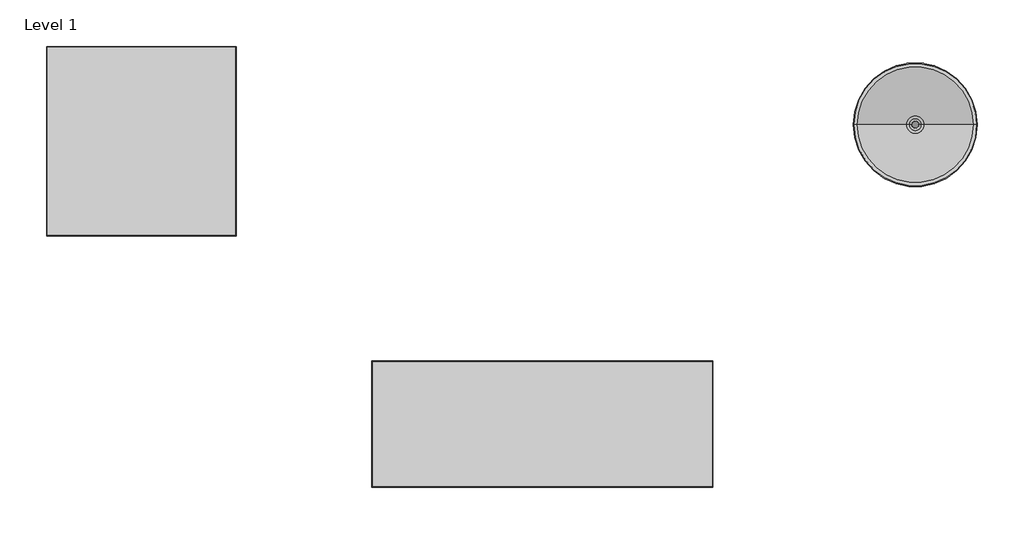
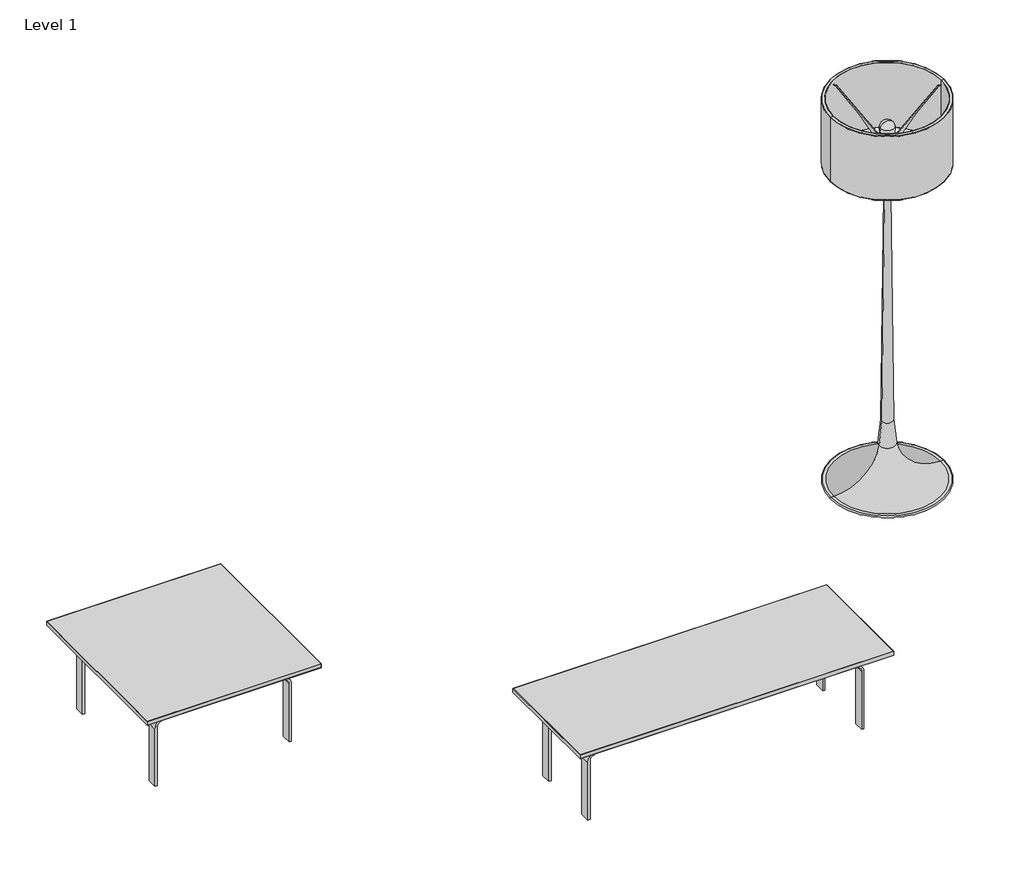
# One storey, incomplete: 3 furniture elements.
"""IFC4 building model written with IfcOpenShell, lengths in millimetres."""

from ifc_helpers import new_model, si_unit, origin, place, context, project, spatial, transform, mapped, element, save
from components import furniture_7a884462, furniture_46ca7431, lighting_98346d79

model = new_model("IFC4")

# Units and contexts
model_context = context("Model", 3, world=origin())
ifc_project = project(units=[si_unit("LENGTHUNIT", "METRE", prefix="MILLI")], contexts=[model_context])

# Site, building, storey
site = spatial("IfcSite", under=ifc_project)
building = spatial("IfcBuilding", under=site)
storey = spatial("IfcBuildingStorey", under=building, Name="Level 1", Elevation=0.0)

# Furniture
placement = place(None, origin())
furniture_shape = furniture_7a884462(model_context)
element("IfcFurniture", 1, ObjectType="Steelcase Coalesse - Millbrae - Table (1) : Rectangular - 20D x 54W x 15H", at=placement, inside=storey, context=model_context, shape_type="MappedRepresentation", body=[
    mapped(furniture_shape, transform((-37894.5828127, -230269.8591715, 0.0), x_axis=(1.0, 0.0, 0.0), y_axis=(0.0, 1.0, 0.0), z_axis=(0.0, 0.0, 1.0))),
])
furniture_2_shape = furniture_46ca7431(model_context)
element("IfcFurniture", 2, ObjectType="Steelcase Coalesse - Millbrae - Table (1) : Square - 30D x 30W x 15H", at=placement, inside=storey, context=model_context, shape_type="MappedRepresentation", body=[
    mapped(furniture_2_shape, transform((-39202.5828677, -229257.6590681, 0.0), x_axis=(1.0, 0.0, 0.0), y_axis=(0.0, 1.0, 0.0), z_axis=(0.0, 0.0, 1.0))),
])
lighting_shape = lighting_98346d79(model_context)
element("IfcFurniture", 3, ObjectType="Flos - Spun Light F : Lighting", at=placement, inside=storey, context=model_context, shape_type="MappedRepresentation", body=[
    mapped(lighting_shape, transform((-36529.0532562, -229156.153436, 0.0), x_axis=(1.0, 0.0, 0.0), y_axis=(0.0, 1.0, 0.0), z_axis=(0.0, 0.0, 1.0))),
])

save(model, "model.ifc")
